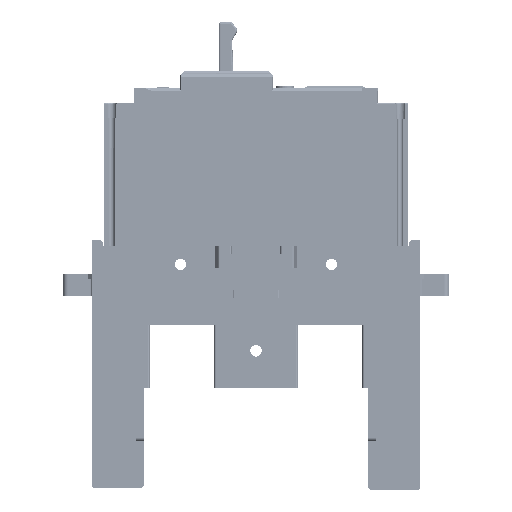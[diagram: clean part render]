
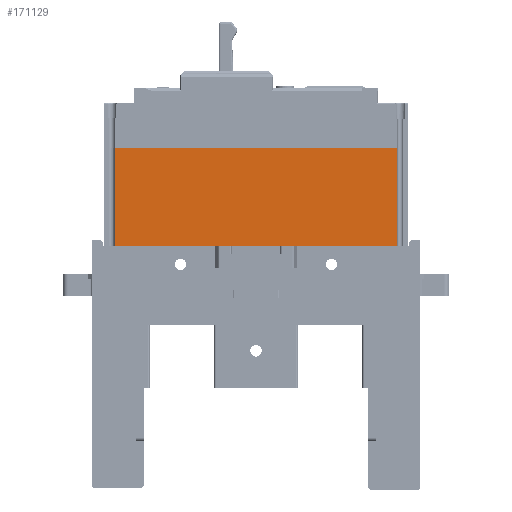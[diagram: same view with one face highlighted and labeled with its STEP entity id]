
A CAD part, left-side view. The second image highlights one B-rep face of the part: STEP entity #171129.
In plain terms, the highlighted planar face has unit normal (-1, 0, 0).
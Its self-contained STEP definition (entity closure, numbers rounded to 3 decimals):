
#13736 = VERTEX_POINT ( 'NONE', #1333824 ) ;
#53495 = DIRECTION ( 'NONE',  ( 0., 0., 1. ) ) ;
#111554 = ORIENTED_EDGE ( 'NONE', *, *, #774721, .F. ) ;
#169551 = DIRECTION ( 'NONE',  ( 0., -1., 0. ) ) ;
#171129 = ADVANCED_FACE ( 'NONE', ( #336118 ), #1352748, .T. ) ;
#293699 = EDGE_CURVE ( 'NONE', #884232, #1169720, #617007, .T. ) ;
#304368 = CARTESIAN_POINT ( 'NONE',  ( -105., -5.75, 53. ) ) ;
#310826 = VECTOR ( 'NONE', #1154638, 1000. ) ;
#328631 = CARTESIAN_POINT ( 'NONE',  ( -105., -159.25, 0. ) ) ;
#330417 = VECTOR ( 'NONE', #679711, 1000. ) ;
#336118 = FACE_OUTER_BOUND ( 'NONE', #614890, .T. ) ;
#371704 = EDGE_CURVE ( 'NONE', #1319902, #884232, #1028937, .T. ) ;
#382646 = EDGE_CURVE ( 'NONE', #13736, #1169720, #779771, .T. ) ;
#400572 = CARTESIAN_POINT ( 'NONE',  ( -105., -165., 0. ) ) ;
#421925 = VECTOR ( 'NONE', #53495, 1000. ) ;
#493259 = VECTOR ( 'NONE', #653614, 1000. ) ;
#614890 = EDGE_LOOP ( 'NONE', ( #111554, #1185186, #1236931, #686713 ) ) ;
#617007 = LINE ( 'NONE', #1108705, #330417 ) ;
#653614 = DIRECTION ( 'NONE',  ( 0., 0., 1. ) ) ;
#679711 = DIRECTION ( 'NONE',  ( 0., -1., 0. ) ) ;
#686713 = ORIENTED_EDGE ( 'NONE', *, *, #371704, .F. ) ;
#706790 = CARTESIAN_POINT ( 'NONE',  ( -105., -165., 53. ) ) ;
#774721 = EDGE_CURVE ( 'NONE', #13736, #1319902, #1137176, .T. ) ;
#779771 = LINE ( 'NONE', #328631, #493259 ) ;
#815064 = DIRECTION ( 'NONE',  ( -1., 0., 0. ) ) ;
#835396 = CARTESIAN_POINT ( 'NONE',  ( -105., -5.75, 0. ) ) ;
#884232 = VERTEX_POINT ( 'NONE', #304368 ) ;
#1028937 = LINE ( 'NONE', #1236733, #421925 ) ;
#1108705 = CARTESIAN_POINT ( 'NONE',  ( -105., -165., 53. ) ) ;
#1137176 = LINE ( 'NONE', #400572, #310826 ) ;
#1154638 = DIRECTION ( 'NONE',  ( 0., 1., 0. ) ) ;
#1169720 = VERTEX_POINT ( 'NONE', #1352828 ) ;
#1185186 = ORIENTED_EDGE ( 'NONE', *, *, #382646, .T. ) ;
#1236733 = CARTESIAN_POINT ( 'NONE',  ( -105., -5.75, 0. ) ) ;
#1236931 = ORIENTED_EDGE ( 'NONE', *, *, #293699, .F. ) ;
#1319902 = VERTEX_POINT ( 'NONE', #835396 ) ;
#1333824 = CARTESIAN_POINT ( 'NONE',  ( -105., -159.25, 0. ) ) ;
#1352748 = PLANE ( 'NONE',  #1385126 ) ;
#1352828 = CARTESIAN_POINT ( 'NONE',  ( -105., -159.25, 53. ) ) ;
#1385126 = AXIS2_PLACEMENT_3D ( 'NONE', #706790, #815064, #169551 ) ;
